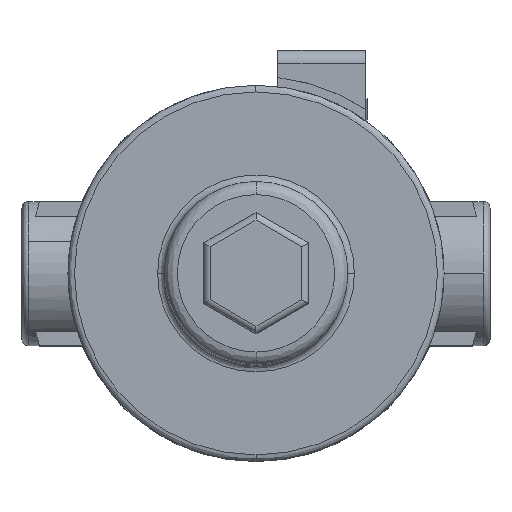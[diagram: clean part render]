
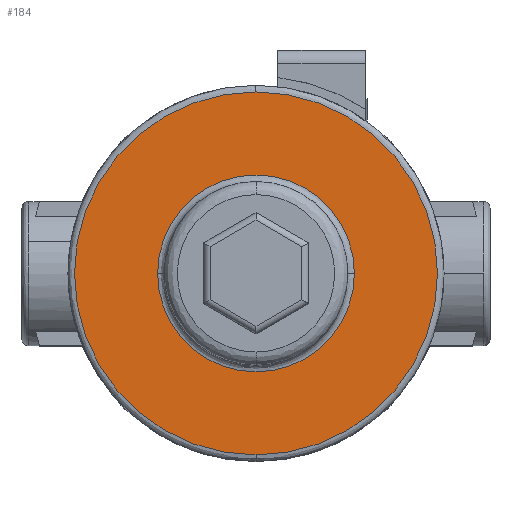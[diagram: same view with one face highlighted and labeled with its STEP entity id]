
A CAD part, top view. The second image highlights one B-rep face of the part: STEP entity #184.
In plain terms, the highlighted planar face has unit normal (0, 0, 1) as drawn and (0, 1, 0) by its records, which use the part's own axes.
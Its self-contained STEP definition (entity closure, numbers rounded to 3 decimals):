
#184=ADVANCED_FACE('',(#1327,#1328),#1326,.T.);
#1326=PLANE('',#2347);
#1327=FACE_OUTER_BOUND('',#2348,.T.);
#1328=FACE_BOUND('',#2349,.T.);
#2344=CARTESIAN_POINT('',(-81.88,42.15,-93.));
#2345=DIRECTION('',(0.,1.,0.));
#2346=DIRECTION('',(0.,0.,1.));
#2347=AXIS2_PLACEMENT_3D('',#2344,#2345,#2346);
#2348=EDGE_LOOP('',(#3371,#3372));
#2349=EDGE_LOOP('',(#3373,#3374,#3375));
#3371=ORIENTED_EDGE('',*,*,#3965,.T.);
#3372=ORIENTED_EDGE('',*,*,#3966,.T.);
#3373=ORIENTED_EDGE('',*,*,#3967,.T.);
#3374=ORIENTED_EDGE('',*,*,#3968,.T.);
#3375=ORIENTED_EDGE('',*,*,#3969,.T.);
#3965=EDGE_CURVE('',#6041,#6042,#6043,.T.);
#3966=EDGE_CURVE('',#6042,#6041,#6049,.T.);
#3967=EDGE_CURVE('',#6055,#6056,#6057,.T.);
#3968=EDGE_CURVE('',#6056,#6063,#6064,.T.);
#3969=EDGE_CURVE('',#6063,#6055,#6070,.T.);
#6041=VERTEX_POINT('',#7948);
#6042=VERTEX_POINT('',#7949);
#6043=CIRCLE('',#7953,41.5);
#6049=CIRCLE('',#7957,41.5);
#6055=VERTEX_POINT('',#7958);
#6056=VERTEX_POINT('',#7959);
#6057=CIRCLE('',#7963,22.5);
#6063=VERTEX_POINT('',#7964);
#6064=CIRCLE('',#7968,22.5);
#6070=CIRCLE('',#7972,22.5);
#7948=CARTESIAN_POINT('',(0.,42.15,41.5));
#7949=CARTESIAN_POINT('',(0.,42.15,-41.5));
#7950=CARTESIAN_POINT('',(0.,42.15,0.));
#7951=DIRECTION('',(0.,1.,0.));
#7952=DIRECTION('',(0.,0.,1.));
#7953=AXIS2_PLACEMENT_3D('',#7950,#7951,#7952);
#7954=CARTESIAN_POINT('',(0.,42.15,0.));
#7955=DIRECTION('',(0.,1.,0.));
#7956=DIRECTION('',(0.,0.,1.));
#7957=AXIS2_PLACEMENT_3D('',#7954,#7955,#7956);
#7958=CARTESIAN_POINT('',(0.,42.15,22.5));
#7959=CARTESIAN_POINT('',(-22.5,42.15,0.));
#7960=CARTESIAN_POINT('',(0.,42.15,0.));
#7961=DIRECTION('',(0.,-1.,0.));
#7962=DIRECTION('',(0.,0.,1.));
#7963=AXIS2_PLACEMENT_3D('',#7960,#7961,#7962);
#7964=CARTESIAN_POINT('',(22.5,42.15,-0.002));
#7965=CARTESIAN_POINT('',(0.,42.15,0.));
#7966=DIRECTION('',(0.,-1.,0.));
#7967=DIRECTION('',(0.,0.,1.));
#7968=AXIS2_PLACEMENT_3D('',#7965,#7966,#7967);
#7969=CARTESIAN_POINT('',(0.,42.15,0.));
#7970=DIRECTION('',(0.,-1.,0.));
#7971=DIRECTION('',(0.,0.,1.));
#7972=AXIS2_PLACEMENT_3D('',#7969,#7970,#7971);
